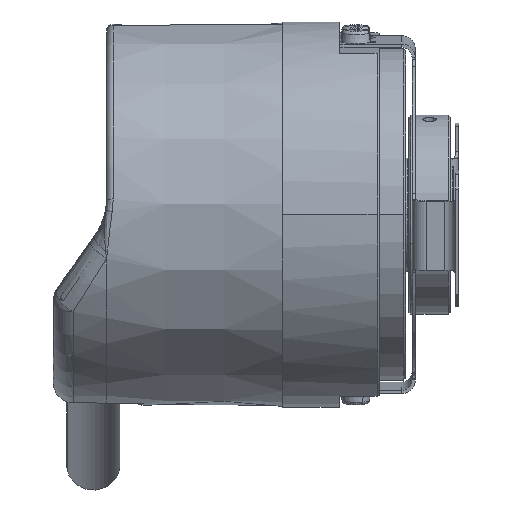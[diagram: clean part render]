
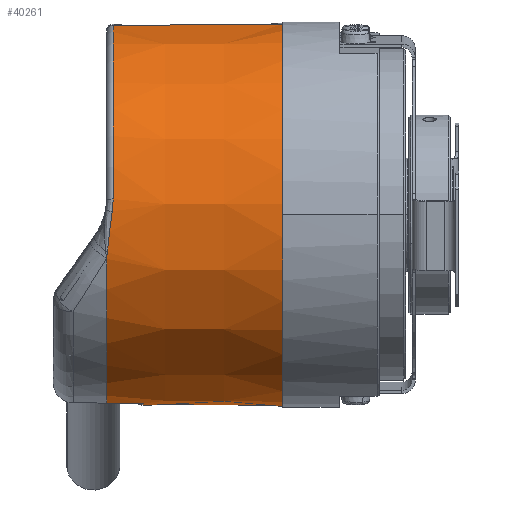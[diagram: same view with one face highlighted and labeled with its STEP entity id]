
A CAD part, top view. The second image highlights one B-rep face of the part: STEP entity #40261.
In plain terms, the highlighted conical face has half-angle 0.5 degrees and reference radius 29 mm.
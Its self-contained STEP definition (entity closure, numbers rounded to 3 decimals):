
#7 = ORIENTED_EDGE ( 'NONE', *, *, #15215, .T. ) ;
#266 = CARTESIAN_POINT ( 'NONE',  ( -18.862, -28.367, 4.151 ) ) ;
#2476 = CARTESIAN_POINT ( 'NONE',  ( 7.5, 0., 0. ) ) ;
#2772 = CARTESIAN_POINT ( 'NONE',  ( -18.156, 0.453, 28.672 ) ) ;
#3974 = EDGE_CURVE ( 'NONE', #48543, #12545, #58967, .T. ) ;
#4725 = CIRCLE ( 'NONE', #35175, 28.716 ) ;
#5532 = VERTEX_POINT ( 'NONE', #31788 ) ;
#6073 = CARTESIAN_POINT ( 'NONE',  ( 7.5, -28.69, -3.477 ) ) ;
#6446 = ORIENTED_EDGE ( 'NONE', *, *, #12504, .T. ) ;
#7288 = VERTEX_POINT ( 'NONE', #11157 ) ;
#7300 = DIRECTION ( 'NONE',  ( 0., 0.993, 0.12 ) ) ;
#9150 = B_SPLINE_CURVE_WITH_KNOTS ( 'NONE', 3,
 ( #48058, #43041, #39903, #40115, #20965, #47911 ),
 .UNSPECIFIED., .F., .F.,
 ( 4, 2, 4 ),
 ( 0., 0.003, 0.006 ),
 .UNSPECIFIED. ) ;
#9266 = DIRECTION ( 'NONE',  ( 1., 0., 0. ) ) ;
#9827 = VERTEX_POINT ( 'NONE', #6073 ) ;
#9864 = CARTESIAN_POINT ( 'NONE',  ( -18.729, -28.369, 4.151 ) ) ;
#10220 = CARTESIAN_POINT ( 'NONE',  ( -18.996, -6.695, 27.876 ) ) ;
#10476 = EDGE_CURVE ( 'NONE', #41272, #7288, #9150, .T. ) ;
#10756 = ORIENTED_EDGE ( 'NONE', *, *, #3974, .F. ) ;
#11157 = CARTESIAN_POINT ( 'NONE',  ( -18.881, -5.669, 28.103 ) ) ;
#11328 = CARTESIAN_POINT ( 'NONE',  ( -18.996, 0., 0. ) ) ;
#11674 = CONICAL_SURFACE ( 'NONE', #26631, 29., 0.009 ) ;
#12248 = CARTESIAN_POINT ( 'NONE',  ( -18.996, -28.366, 4.151 ) ) ;
#12423 = EDGE_CURVE ( 'NONE', #50408, #5532, #4725, .T. ) ;
#12504 = EDGE_CURVE ( 'NONE', #53407, #41272, #25778, .T. ) ;
#12545 = VERTEX_POINT ( 'NONE', #19887 ) ;
#14748 = CARTESIAN_POINT ( 'NONE',  ( -18.062, -28.374, 4.153 ) ) ;
#15178 = B_SPLINE_CURVE_WITH_KNOTS ( 'NONE', 3,
 ( #34195, #43839, #10220, #44055 ),
 .UNSPECIFIED., .F., .F.,
 ( 4, 4 ),
 ( 0., 0. ),
 .UNSPECIFIED. ) ;
#15215 = EDGE_CURVE ( 'NONE', #5532, #9827, #17044, .T. ) ;
#16174 = DIRECTION ( 'NONE',  ( 0., -0.993, -0.12 ) ) ;
#16343 = CARTESIAN_POINT ( 'NONE',  ( -18.009, 2.316, 28.583 ) ) ;
#16731 = ORIENTED_EDGE ( 'NONE', *, *, #12423, .T. ) ;
#17044 = LINE ( 'NONE', #21902, #43538 ) ;
#17129 = VECTOR ( 'NONE', #22641, 1000. ) ;
#18033 = CARTESIAN_POINT ( 'NONE',  ( 19., 0., 0. ) ) ;
#19399 = CARTESIAN_POINT ( 'NONE',  ( -13.513, -28.413, 4.166 ) ) ;
#19557 = CARTESIAN_POINT ( 'NONE',  ( -16.996, -28.383, 4.156 ) ) ;
#19673 = AXIS2_PLACEMENT_3D ( 'NONE', #2476, #36031, #7300 ) ;
#19887 = CARTESIAN_POINT ( 'NONE',  ( 7.5, 28.69, 3.477 ) ) ;
#19987 = CARTESIAN_POINT ( 'NONE',  ( -18.995, -6.688, 27.877 ) ) ;
#20965 = CARTESIAN_POINT ( 'NONE',  ( -18.766, -4.661, 28.308 ) ) ;
#21593 = CARTESIAN_POINT ( 'NONE',  ( -18.156, 0.453, 28.672 ) ) ;
#21902 = CARTESIAN_POINT ( 'NONE',  ( 19., -28.789, -3.489 ) ) ;
#22058 = AXIS2_PLACEMENT_3D ( 'NONE', #11328, #45180, #16174 ) ;
#22641 = DIRECTION ( 'NONE',  ( 1., 0.009, 0.001 ) ) ;
#22941 = CARTESIAN_POINT ( 'NONE',  ( 19., 28.789, 3.489 ) ) ;
#24477 = CARTESIAN_POINT ( 'NONE',  ( -14.674, -28.403, 4.162 ) ) ;
#24682 = CARTESIAN_POINT ( 'NONE',  ( -18.881, -5.669, 28.103 ) ) ;
#25778 = B_SPLINE_CURVE_WITH_KNOTS ( 'NONE', 3,
 ( #16343, #35418, #30645, #21593 ),
 .UNSPECIFIED., .F., .F.,
 ( 4, 4 ),
 ( 0., 0.002 ),
 .UNSPECIFIED. ) ;
#26631 = AXIS2_PLACEMENT_3D ( 'NONE', #18033, #57044, #32333 ) ;
#26641 = CIRCLE ( 'NONE', #22058, 28.668 ) ;
#26781 = VERTEX_POINT ( 'NONE', #40803 ) ;
#27167 = DIRECTION ( 'NONE',  ( 1., -0.009, -0.001 ) ) ;
#27510 = FACE_OUTER_BOUND ( 'NONE', #37278, .T. ) ;
#29347 = CARTESIAN_POINT ( 'NONE',  ( -13.513, 0., 0. ) ) ;
#30090 = EDGE_CURVE ( 'NONE', #52349, #50408, #34857, .T. ) ;
#30582 = EDGE_CURVE ( 'NONE', #12545, #9827, #39022, .T. ) ;
#30645 = CARTESIAN_POINT ( 'NONE',  ( -18.057, 1.071, 28.663 ) ) ;
#31788 = CARTESIAN_POINT ( 'NONE',  ( -13.513, -28.508, -3.455 ) ) ;
#32333 = DIRECTION ( 'NONE',  ( 0., 0.993, 0.12 ) ) ;
#33859 = CARTESIAN_POINT ( 'NONE',  ( -18.996, -28.366, 4.151 ) ) ;
#34195 = CARTESIAN_POINT ( 'NONE',  ( -18.995, -6.688, 27.877 ) ) ;
#34338 = DIRECTION ( 'NONE',  ( 0., 0.993, 0.12 ) ) ;
#34857 = B_SPLINE_CURVE_WITH_KNOTS ( 'NONE', 3,
 ( #33859, #266, #9864, #43694, #14748, #48689, #19557, #53628, #24477, #58543 ),
 .UNSPECIFIED., .F., .F.,
 ( 4, 3, 3, 4 ),
 ( 0., 0., 0.002, 0.005 ),
 .UNSPECIFIED. ) ;
#35175 = AXIS2_PLACEMENT_3D ( 'NONE', #29347, #53926, #34338 ) ;
#35418 = CARTESIAN_POINT ( 'NONE',  ( -18.009, 1.692, 28.634 ) ) ;
#36031 = DIRECTION ( 'NONE',  ( 1., 0., 0. ) ) ;
#36203 = CARTESIAN_POINT ( 'NONE',  ( -18.009, 28.469, 3.45 ) ) ;
#36501 = EDGE_CURVE ( 'NONE', #45977, #26781, #15178, .T. ) ;
#36732 = ORIENTED_EDGE ( 'NONE', *, *, #30090, .T. ) ;
#37278 = EDGE_LOOP ( 'NONE', ( #16731, #7, #46447, #10756, #44392, #6446, #59593, #60252, #42204, #42839, #36732 ) ) ;
#38048 = CARTESIAN_POINT ( 'NONE',  ( -18.009, 0., 0. ) ) ;
#38575 = CARTESIAN_POINT ( 'NONE',  ( -18.009, 2.316, 28.583 ) ) ;
#39022 = CIRCLE ( 'NONE', #19673, 28.9 ) ;
#39903 = CARTESIAN_POINT ( 'NONE',  ( -18.439, -1.594, 28.647 ) ) ;
#40115 = CARTESIAN_POINT ( 'NONE',  ( -18.664, -3.64, 28.458 ) ) ;
#40261 = ADVANCED_FACE ( 'NONE', ( #27510 ), #11674, .T. ) ;
#40803 = CARTESIAN_POINT ( 'NONE',  ( -18.996, -6.698, 27.875 ) ) ;
#41272 = VERTEX_POINT ( 'NONE', #2772 ) ;
#42204 = ORIENTED_EDGE ( 'NONE', *, *, #36501, .T. ) ;
#42839 = ORIENTED_EDGE ( 'NONE', *, *, #50975, .T. ) ;
#43040 = DIRECTION ( 'NONE',  ( 0., -0.993, -0.12 ) ) ;
#43041 = CARTESIAN_POINT ( 'NONE',  ( -18.319, -0.569, 28.687 ) ) ;
#43538 = VECTOR ( 'NONE', #27167, 1000. ) ;
#43694 = CARTESIAN_POINT ( 'NONE',  ( -18.596, -28.37, 4.152 ) ) ;
#43839 = CARTESIAN_POINT ( 'NONE',  ( -18.995, -6.691, 27.877 ) ) ;
#44055 = CARTESIAN_POINT ( 'NONE',  ( -18.996, -6.698, 27.875 ) ) ;
#44392 = ORIENTED_EDGE ( 'NONE', *, *, #58597, .T. ) ;
#45180 = DIRECTION ( 'NONE',  ( 1., 0., 0. ) ) ;
#45275 = B_SPLINE_CURVE_WITH_KNOTS ( 'NONE', 3,
 ( #24682, #53850, #49137, #19987 ),
 .UNSPECIFIED., .F., .F.,
 ( 4, 4 ),
 ( 0., 0.001 ),
 .UNSPECIFIED. ) ;
#45977 = VERTEX_POINT ( 'NONE', #51712 ) ;
#46447 = ORIENTED_EDGE ( 'NONE', *, *, #30582, .F. ) ;
#47911 = CARTESIAN_POINT ( 'NONE',  ( -18.881, -5.669, 28.103 ) ) ;
#48058 = CARTESIAN_POINT ( 'NONE',  ( -18.156, 0.453, 28.672 ) ) ;
#48533 = AXIS2_PLACEMENT_3D ( 'NONE', #38048, #9266, #43040 ) ;
#48543 = VERTEX_POINT ( 'NONE', #36203 ) ;
#48689 = CARTESIAN_POINT ( 'NONE',  ( -17.529, -28.379, 4.155 ) ) ;
#49137 = CARTESIAN_POINT ( 'NONE',  ( -18.957, -6.35, 27.959 ) ) ;
#50408 = VERTEX_POINT ( 'NONE', #19399 ) ;
#50975 = EDGE_CURVE ( 'NONE', #26781, #52349, #26641, .T. ) ;
#51712 = CARTESIAN_POINT ( 'NONE',  ( -18.995, -6.688, 27.877 ) ) ;
#52349 = VERTEX_POINT ( 'NONE', #12248 ) ;
#53407 = VERTEX_POINT ( 'NONE', #38575 ) ;
#53628 = CARTESIAN_POINT ( 'NONE',  ( -15.835, -28.393, 4.159 ) ) ;
#53850 = CARTESIAN_POINT ( 'NONE',  ( -18.919, -6.01, 28.034 ) ) ;
#53926 = DIRECTION ( 'NONE',  ( 1., 0., 0. ) ) ;
#55865 = CIRCLE ( 'NONE', #48533, 28.677 ) ;
#57044 = DIRECTION ( 'NONE',  ( 1., 0., 0. ) ) ;
#58543 = CARTESIAN_POINT ( 'NONE',  ( -13.513, -28.413, 4.166 ) ) ;
#58597 = EDGE_CURVE ( 'NONE', #48543, #53407, #55865, .T. ) ;
#58735 = EDGE_CURVE ( 'NONE', #7288, #45977, #45275, .T. ) ;
#58967 = LINE ( 'NONE', #22941, #17129 ) ;
#59593 = ORIENTED_EDGE ( 'NONE', *, *, #10476, .T. ) ;
#60252 = ORIENTED_EDGE ( 'NONE', *, *, #58735, .T. ) ;
